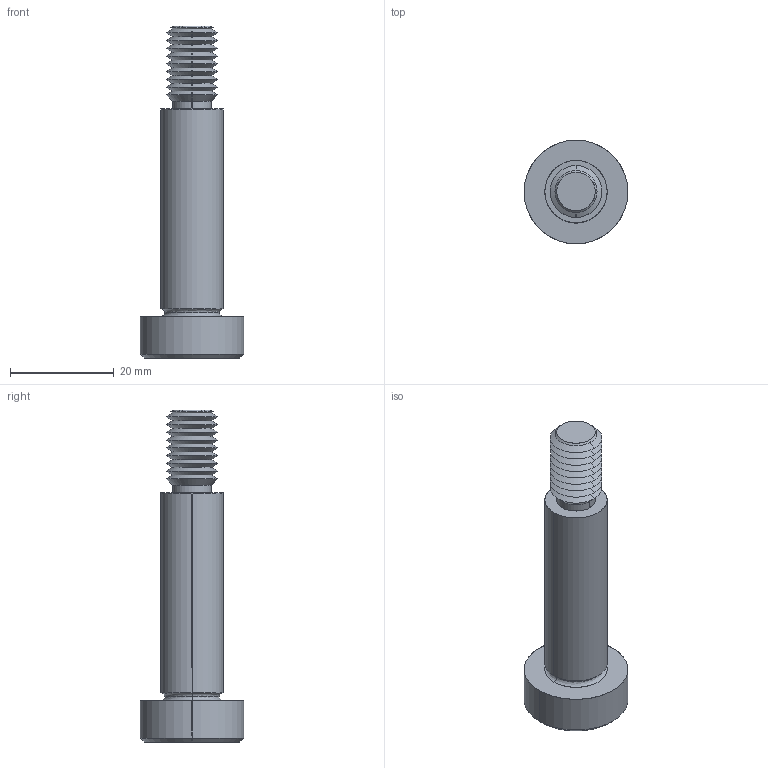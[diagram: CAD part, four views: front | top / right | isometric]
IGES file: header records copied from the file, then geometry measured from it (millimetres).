
Start section: SolidWorks IGES file using analytic representation for surfaces
Global section: file name: C:\Users\IanO\Documents\Temp Folder\GENERAL\SCREW REVISION\P0130_v2\P0130.T5_v2_20220106_IGES\P0130.120-040-T5.igs; native system: SolidWorks 2019; preprocessor: SolidWorks 2019; author: IanO; date: 220106.224820; units: millimetre
Bounding box: 20 x 20 x 64 mm (x, y, z)
Surface area: 3562.4 mm2 (no closed solid volume)
Topology: 0 solids, 0 shells, 76 faces, 564 edges, 562 vertices
Faces by surface type: revolution 56, bspline 20
